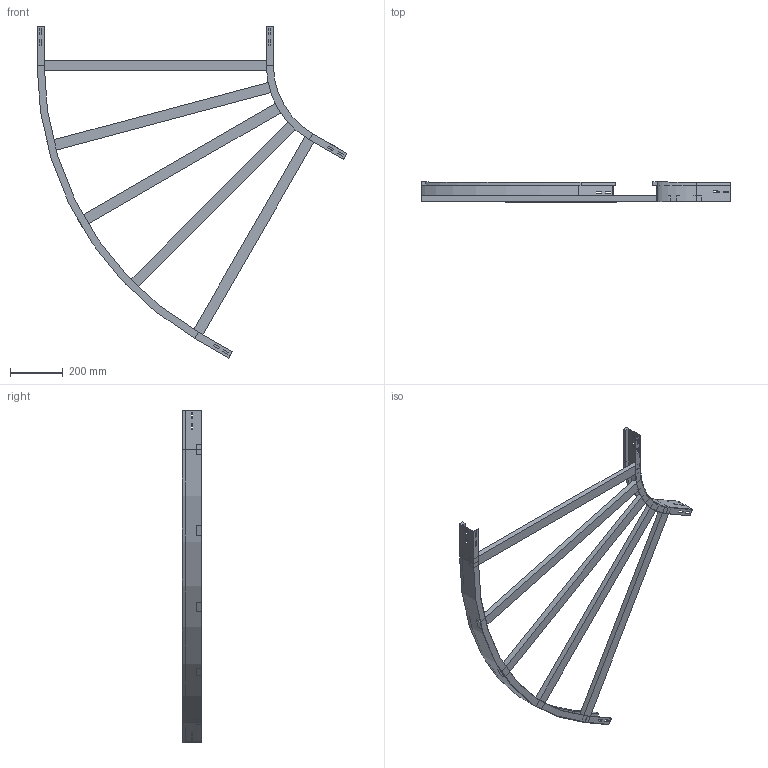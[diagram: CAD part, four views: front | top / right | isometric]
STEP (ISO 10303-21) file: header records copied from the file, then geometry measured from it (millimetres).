
FILE_DESCRIPTION (( 'STEP AP214' ), '1' );
FILE_NAME ('A2_13B3C900.step', '2025-02-21T15:21:31', ( '' ), ( '' ), 'SwSTEP 2.0', 'SolidWorks 2023', '' );
FILE_SCHEMA (( 'AUTOMOTIVE_DESIGN' ));
Length unit declared in the file: millimetre
Products named in the file (4): A2_LONGH.INTERNO 60°_H75_R300; A2_LONGH.ESTERNO 60°_H75_R300+900; TRAVERSINO_900; A2_13B3C900
Assembly tree (7 placements, depth 2):
  A2_13B3C900
    A2_LONGH.INTERNO 60°_H75_R300
    A2_LONGH.ESTERNO 60°_H75_R300+900
    TRAVERSINO_900  x5
Bounding box: 1179.9 x 75 x 1264.23 mm (x, y, z)
Volume: 4474824.2 mm3; surface area: 1060983.9 mm2
Topology: 7 solids, 7 shells, 146 faces, 364 edges, 232 vertices
Faces by surface type: plane 138, cylinder 8
Entity records: 3837 total; most frequent: CARTESIAN_POINT 648, ORIENTED_EDGE 632, DIRECTION 596, EDGE_CURVE 316, LINE 300, VECTOR 300, VERTEX_POINT 200, EDGE_LOOP 154
